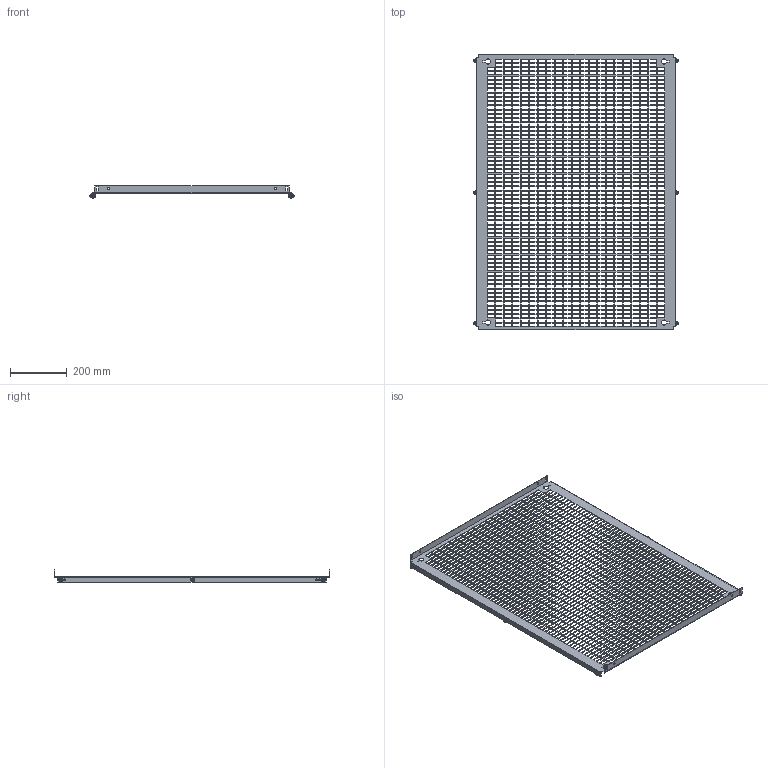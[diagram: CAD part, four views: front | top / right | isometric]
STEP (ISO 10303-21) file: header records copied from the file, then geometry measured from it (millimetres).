
FILE_DESCRIPTION(('Open CASCADE Model'),'2;1');
FILE_NAME('Open CASCADE Shape Model','2025-02-19T16:53:20',('Author'),( 'Open CASCADE'),'Open CASCADE STEP processor 7.8','Open CASCADE 7.8' ,'Unknown');
FILE_SCHEMA(('AUTOMOTIVE_DESIGN { 1 0 10303 214 1 1 1 1 }'));
Length unit declared in the file: millimetre
Products named in the file (4): Compound1; Solid1; Solid2; Solid3
Assembly tree (13 placements, depth 2):
  Compound1
    Solid1
    Solid2  x6
    Solid3  x6
Bounding box: 720 x 969 x 43 mm (x, y, z)
Volume: 737926.3 mm3; surface area: 939951.3 mm2
Topology: 13 solids, 13 shells, 5658 faces, 16718 edges, 11092 vertices
Faces by surface type: plane 5428, cone 102, bspline 72, cylinder 38, torus 18
Full cylindrical faces by diameter (mm): 5 x6, 6 x12, 7 x16
Entity records: 183748 total; most frequent: CARTESIAN_POINT 32923, ORIENTED_EDGE 32306, DIRECTION 26944, EDGE_CURVE 16153, LINE 15988, VECTOR 15988, VERTEX_POINT 10762, FACE_BOUND 8079
